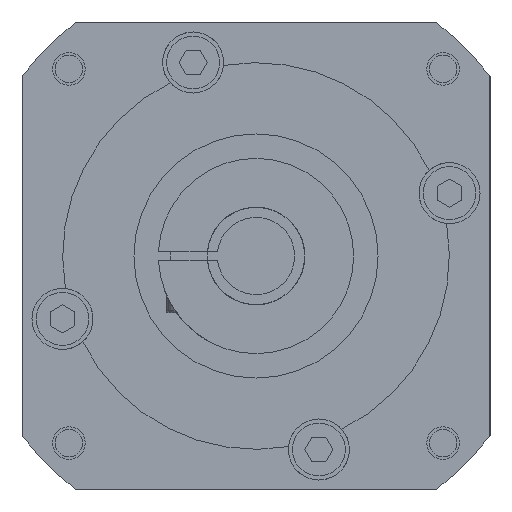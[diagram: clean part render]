
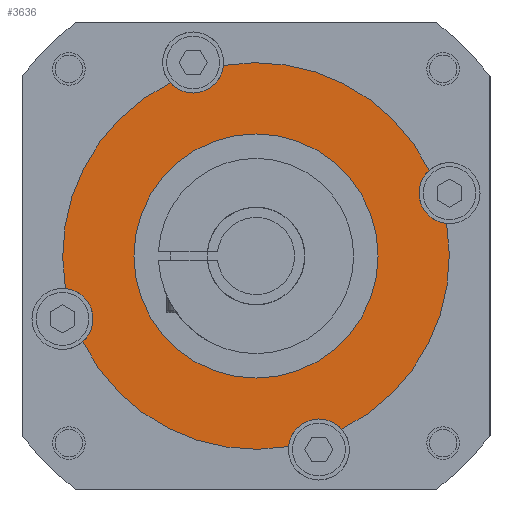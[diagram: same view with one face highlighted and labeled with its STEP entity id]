
A CAD part, left-side view. The second image highlights one B-rep face of the part: STEP entity #3636.
In plain terms, the highlighted planar face has unit normal (-1, 0, 0).
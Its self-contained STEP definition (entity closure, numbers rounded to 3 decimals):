
#137=CARTESIAN_POINT('',(5.3,0.,0.));
#138=DIRECTION('',(-1.,0.,0.));
#139=DIRECTION('',(0.,0.,1.));
#140=AXIS2_PLACEMENT_3D('',#137,#138,#139);
#146=CARTESIAN_POINT('',(5.3,0.,0.));
#147=DIRECTION('',(-1.,0.,0.));
#148=DIRECTION('',(0.,0.,-1.));
#149=AXIS2_PLACEMENT_3D('',#146,#147,#148);
#151=CARTESIAN_POINT('',(5.3,-47.553,15.451));
#152=DIRECTION('',(-1.,0.,0.));
#153=DIRECTION('',(0.,0.664,0.748));
#154=AXIS2_PLACEMENT_3D('',#151,#152,#153);
#156=CARTESIAN_POINT('',(5.3,-15.451,-47.553));
#157=DIRECTION('',(-1.,0.,0.));
#158=DIRECTION('',(0.,-0.748,0.664));
#159=AXIS2_PLACEMENT_3D('',#156,#157,#158);
#161=CARTESIAN_POINT('',(5.3,-15.451,-47.553));
#162=DIRECTION('',(-1.,0.,0.));
#163=DIRECTION('',(0.,0.,1.));
#164=AXIS2_PLACEMENT_3D('',#161,#162,#163);
#166=CARTESIAN_POINT('',(5.3,47.553,-15.451));
#167=DIRECTION('',(-1.,0.,0.));
#168=DIRECTION('',(0.,-0.664,-0.748));
#169=AXIS2_PLACEMENT_3D('',#166,#167,#168);
#171=CARTESIAN_POINT('',(5.3,15.451,47.553));
#172=DIRECTION('',(-1.,0.,0.));
#173=DIRECTION('',(0.,0.748,-0.664));
#174=AXIS2_PLACEMENT_3D('',#171,#172,#173);
#176=CARTESIAN_POINT('',(5.3,15.451,47.553));
#177=DIRECTION('',(-1.,0.,0.));
#178=DIRECTION('',(0.,0.,-1.));
#179=AXIS2_PLACEMENT_3D('',#176,#177,#178);
#831=CARTESIAN_POINT('',(5.3,0.,0.));
#832=DIRECTION('',(-1.,0.,0.));
#833=DIRECTION('',(0.,-0.896,0.443));
#834=AXIS2_PLACEMENT_3D('',#831,#832,#833);
#840=CARTESIAN_POINT('',(5.3,0.,0.));
#841=DIRECTION('',(-1.,0.,0.));
#842=DIRECTION('',(0.,-0.443,-0.896));
#843=AXIS2_PLACEMENT_3D('',#840,#841,#842);
#866=CARTESIAN_POINT('',(5.3,0.,0.));
#867=DIRECTION('',(1.,0.,0.));
#868=DIRECTION('',(0.,-0.168,-0.986));
#869=AXIS2_PLACEMENT_3D('',#866,#867,#868);
#880=CARTESIAN_POINT('',(5.3,0.,0.));
#881=DIRECTION('',(-1.,0.,0.));
#882=DIRECTION('',(0.,0.443,0.896));
#883=AXIS2_PLACEMENT_3D('',#880,#881,#882);
#3078=CARTESIAN_POINT('',(5.3,-15.451,-40.053));
#3079=VERTEX_POINT('',#3078);
#3080=CARTESIAN_POINT('',(5.3,15.451,40.053));
#3081=VERTEX_POINT('',#3080);
#3214=CARTESIAN_POINT('',(5.3,0.,-30.));
#3215=VERTEX_POINT('',#3214);
#3216=CARTESIAN_POINT('',(5.3,0.,30.));
#3217=VERTEX_POINT('',#3216);
#3368=CARTESIAN_POINT('',(5.3,-21.061,-42.576));
#3369=VERTEX_POINT('',#3368);
#3370=CARTESIAN_POINT('',(5.3,-7.986,-46.824));
#3371=VERTEX_POINT('',#3370);
#3372=CARTESIAN_POINT('',(5.3,42.576,-21.061));
#3373=VERTEX_POINT('',#3372);
#3374=CARTESIAN_POINT('',(5.3,46.824,-7.986));
#3375=VERTEX_POINT('',#3374);
#3376=CARTESIAN_POINT('',(5.3,-42.576,21.061));
#3377=VERTEX_POINT('',#3376);
#3378=CARTESIAN_POINT('',(5.3,-46.824,7.986));
#3379=VERTEX_POINT('',#3378);
#3380=CARTESIAN_POINT('',(5.3,7.986,46.824));
#3381=VERTEX_POINT('',#3380);
#3382=CARTESIAN_POINT('',(5.3,21.061,42.576));
#3383=VERTEX_POINT('',#3382);
#3605=CARTESIAN_POINT('',(5.3,0.,0.));
#3606=DIRECTION('',(1.,0.,0.));
#3607=DIRECTION('',(0.,1.,0.));
#3608=AXIS2_PLACEMENT_3D('',#3605,#3606,#3607);
#3609=PLANE('',#3608);
#3611=ORIENTED_EDGE('',*,*,#3610,.T.);
#3613=ORIENTED_EDGE('',*,*,#3612,.F.);
#3615=ORIENTED_EDGE('',*,*,#3614,.T.);
#3617=ORIENTED_EDGE('',*,*,#3616,.T.);
#3619=ORIENTED_EDGE('',*,*,#3618,.T.);
#3621=ORIENTED_EDGE('',*,*,#3620,.T.);
#3623=ORIENTED_EDGE('',*,*,#3622,.F.);
#3625=ORIENTED_EDGE('',*,*,#3624,.T.);
#3627=ORIENTED_EDGE('',*,*,#3626,.T.);
#3629=ORIENTED_EDGE('',*,*,#3628,.F.);
#3630=EDGE_LOOP('',(#3611,#3613,#3615,#3617,#3619,#3621,#3623,#3625,#3627,
#3629));
#3631=FACE_OUTER_BOUND('',#3630,.F.);
#3632=ORIENTED_EDGE('',*,*,#3550,.T.);
#3633=ORIENTED_EDGE('',*,*,#3566,.T.);
#3634=EDGE_LOOP('',(#3632,#3633));
#3635=FACE_BOUND('',#3634,.F.);
#141=CIRCLE('',#140,30.);
#150=CIRCLE('',#149,30.);
#155=CIRCLE('',#154,7.5);
#160=CIRCLE('',#159,7.5);
#165=CIRCLE('',#164,7.5);
#170=CIRCLE('',#169,7.5);
#175=CIRCLE('',#174,7.5);
#180=CIRCLE('',#179,7.5);
#835=CIRCLE('',#834,47.5);
#844=CIRCLE('',#843,47.5);
#870=CIRCLE('',#869,47.5);
#884=CIRCLE('',#883,47.5);
#3550=EDGE_CURVE('',#3217,#3215,#141,.T.);
#3566=EDGE_CURVE('',#3215,#3217,#150,.T.);
#3610=EDGE_CURVE('',#3377,#3379,#155,.T.);
#3612=EDGE_CURVE('',#3369,#3379,#844,.T.);
#3614=EDGE_CURVE('',#3369,#3079,#160,.T.);
#3616=EDGE_CURVE('',#3079,#3371,#165,.T.);
#3618=EDGE_CURVE('',#3371,#3373,#870,.T.);
#3620=EDGE_CURVE('',#3373,#3375,#170,.T.);
#3622=EDGE_CURVE('',#3383,#3375,#884,.T.);
#3624=EDGE_CURVE('',#3383,#3081,#175,.T.);
#3626=EDGE_CURVE('',#3081,#3381,#180,.T.);
#3628=EDGE_CURVE('',#3377,#3381,#835,.T.);
#3636=ADVANCED_FACE('',(#3631,#3635),#3609,.F.);
